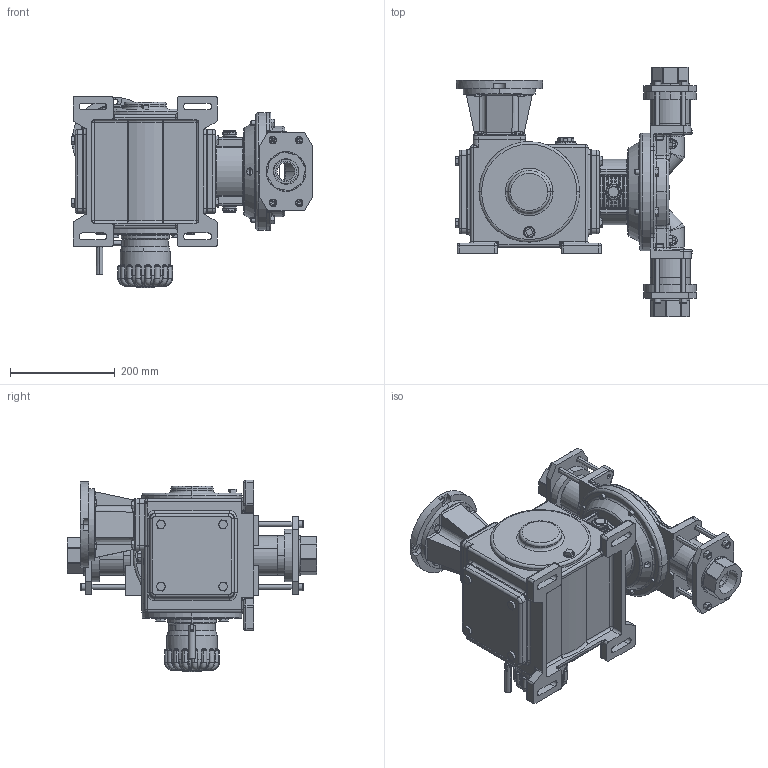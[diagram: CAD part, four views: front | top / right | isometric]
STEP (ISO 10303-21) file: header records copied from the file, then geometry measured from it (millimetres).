
FILE_DESCRIPTION (( 'STEP AP203' ), '1' );
FILE_NAME ('DM7JYAH.STEP', '2025-03-21T11:52:44', ( '' ), ( '' ), 'SwSTEP 2.0', 'SolidWorks 2023', '' );
FILE_SCHEMA (( 'CONFIG_CONTROL_DESIGN' ));
Length unit declared in the file: inch
Products named in the file (1): DM7JYAH
Bounding box: 459.4 x 476.4 x 366.39 mm (x, y, z)
Surface area: 972487 mm2 (no closed solid volume)
Topology: 0 solids, 194 shells, 2098 faces, 8995 edges, 6841 vertices
Faces by surface type: cylinder 660, plane 636, bspline 305, torus 227, cone 211, sphere 59
Entity records: 121981 total; most frequent: CARTESIAN_POINT 54237, ORIENTED_EDGE 13006, DIRECTION 12654, EDGE_CURVE 8887, VERTEX_POINT 6841, VECTOR 4292, LINE 4292, AXIS2_PLACEMENT_3D 4181
